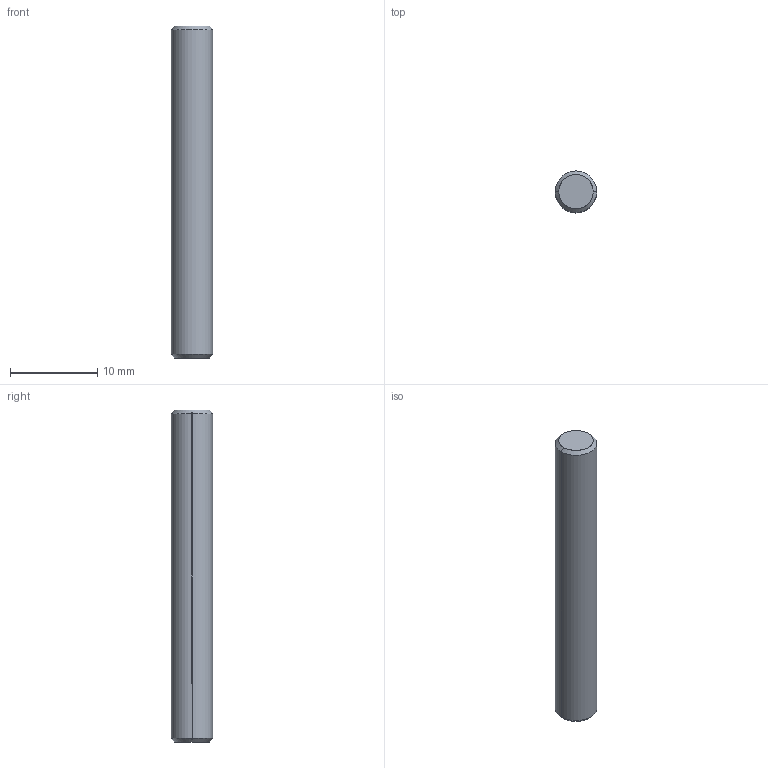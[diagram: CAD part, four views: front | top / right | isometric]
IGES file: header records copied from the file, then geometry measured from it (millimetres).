
Start section: SolidWorks IGES file using analytic representation for surfaces
Global section: file name: D:\Solid_parts\MECHeDESIGN\Bal-Tec\Catalog 105-A\Distribution\IGES\187-C.IGS; native system: SolidWorks 2005 by SolidWorks Corporation; preprocessor: SolidWorks 2005 by SolidWorks Corporation; author: rvillegas; date: 061204.225806; units: inch
Bounding box: 4.76 x 4.76 x 38.1 mm (x, y, z)
Surface area: 598.1 mm2 (no closed solid volume)
Topology: 0 solids, 0 shells, 8 faces, 88 edges, 88 vertices
Faces by surface type: revolution 6, bspline 2
